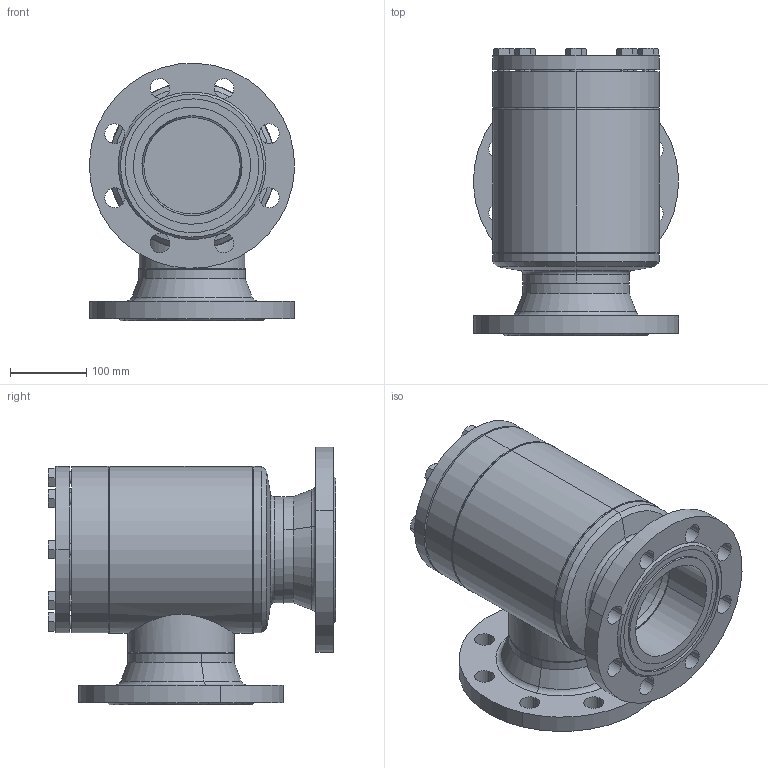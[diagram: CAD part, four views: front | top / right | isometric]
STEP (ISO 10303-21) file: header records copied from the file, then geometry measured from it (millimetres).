
FILE_DESCRIPTION (( 'STEP AP214' ), '1' );
FILE_NAME ('SS52420D20-DN125_DIN-FL-N_PS40.STEP', '2006-05-02T05:56:07', ( 'Herr Grams' ), ( 'AWP GmbH' ), 'SwSTEP 2.0', 'SolidWorks 2002296', '' );
FILE_SCHEMA (( 'AUTOMOTIVE_DESIGN' ));
Length unit declared in the file: millimetre
Products named in the file (14): SS52420D20-DN125_DIN-FL-N_PS40; SS52300E20_Deck+Schr-DN125_Standard; Deckel52300E20-DN125_Standard; Sechskantschraube-DIN933_M16x 45; Gehäuse-kpl16420-DN125_DIN_PS40_Standard; Gehäuse16300-DN125_Standard; Boden16300-DN125_Standard; Kopfstück16300-DN125_Standard; Flansch-DIN-Nut_PS40_DIN-Flansch-DN125_PS40-Nut; Rohrstutzen-A16300-DN125_R1_Standard; bead-DN125-3_Standard; bead-DN125-1_Standard; bead-DN125-2_Standard; bead-DN125-4_Standard
Assembly tree (21 placements, depth 3):
  SS52420D20-DN125_DIN-FL-N_PS40
    SS52300E20_Deck+Schr-DN125_Standard
      Deckel52300E20-DN125_Standard
      Sechskantschraube-DIN933_M16x 45  x8
    Gehäuse-kpl16420-DN125_DIN_PS40_Standard
      bead-DN125-2_Standard
      Gehäuse16300-DN125_Standard
      Boden16300-DN125_Standard
      Flansch-DIN-Nut_PS40_DIN-Flansch-DN125_PS40-Nut  x2
      Kopfstück16300-DN125_Standard
      bead-DN125-3_Standard
      Rohrstutzen-A16300-DN125_R1_Standard
      bead-DN125-1_Standard
      bead-DN125-4_Standard
Bounding box: 269.74 x 378 x 338.87 mm (x, y, z)
Volume: 6235683.5 mm3; surface area: 1009828.5 mm2
Topology: 19 solids, 19 shells, 369 faces, 834 edges, 504 vertices
Faces by surface type: cone 128, cylinder 113, plane 106, bspline 16, torus 6
Entity records: 7770 total; most frequent: CARTESIAN_POINT 3362, DIRECTION 796, ORIENTED_EDGE 732, EDGE_CURVE 366, AXIS2_PLACEMENT_3D 350, VERTEX_POINT 230, EDGE_LOOP 206, CIRCLE 184
